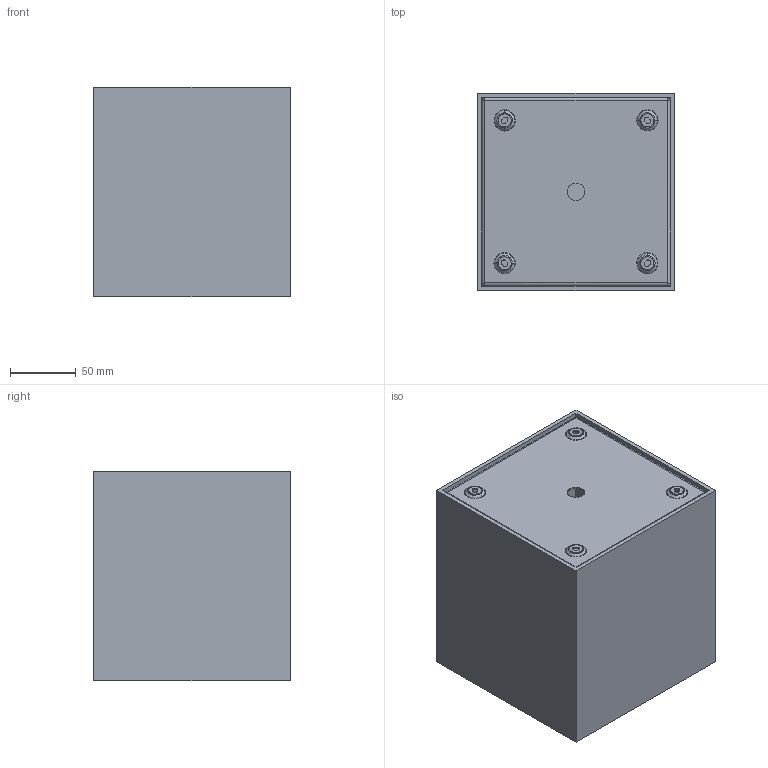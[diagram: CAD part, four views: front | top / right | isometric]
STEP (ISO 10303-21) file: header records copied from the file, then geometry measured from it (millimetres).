
FILE_DESCRIPTION(/* description */ (''),/* implementation_level */ '2;1');
FILE_NAME(/* name */ 'P039.015',/* time_stamp */ '2024-09-02T16:51:33+02:00',/* author */ (''),/* organization */ (''),/* preprocessor_version */ 'ST-DEVELOPER v16.5',/* originating_system */ '',/* authorisation */ '');
FILE_SCHEMA (('AUTOMOTIVE_DESIGN'));
Length unit declared in the file: millimetre
Products named in the file (1): Document
Bounding box: 150 x 150 x 160 mm (x, y, z)
Volume: 418502.3 mm3; surface area: 363446.6 mm2
Topology: 5 solids, 5 shells, 453 faces, 1017 edges, 606 vertices
Faces by surface type: bspline 265, plane 188
Entity records: 21476 total; most frequent: CARTESIAN_POINT 15176, ORIENTED_EDGE 2034, EDGE_CURVE 1017, VERTEX_POINT 606, B_SPLINE_CURVE_WITH_KNOTS 559, EDGE_LOOP 505, ADVANCED_FACE 453, FACE_OUTER_BOUND 453
